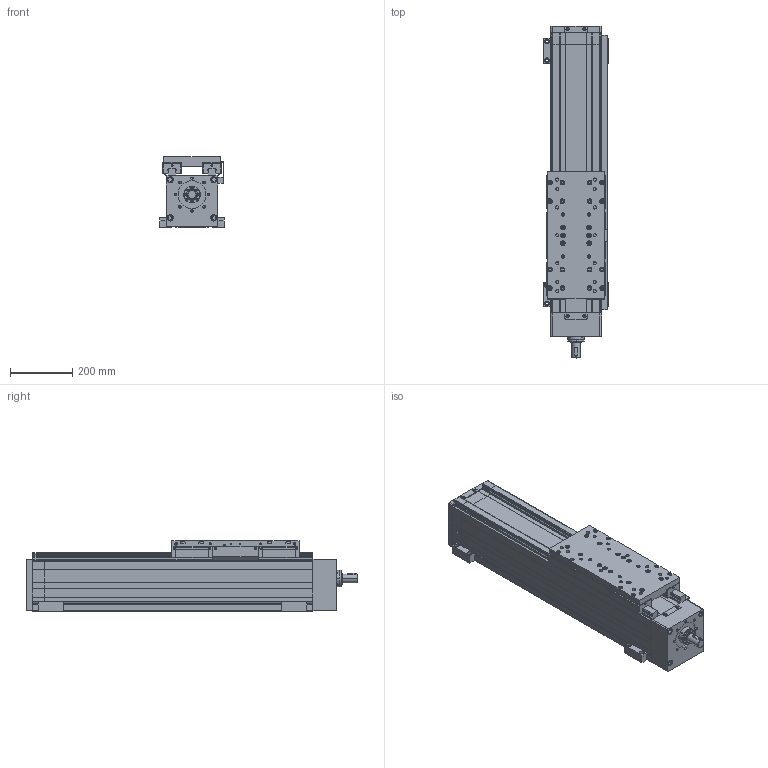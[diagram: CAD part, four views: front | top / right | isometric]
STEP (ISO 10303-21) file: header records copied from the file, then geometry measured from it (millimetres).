
FILE_DESCRIPTION(('Creo Elements/Direct Modeling STEP Export'),'2;1');
FILE_NAME('B165-C-SSF-410-EN.stp','2020-10-07T13:51:27',(''),(''),'Creo Elements/Direct Modeling STEP processor for AP214 (Solid Model)','Creo Elements/Direct Modeling 20.1C 13-Oct-2019 (C) Parametric Technology GmbH','');
FILE_SCHEMA(('AUTOMOTIVE_DESIGN { 1 0 10303 214 1 1 1 1 }'));
Length unit declared in the file: millimetre
Products named in the file (13): Endschalter_induktiv__ES2-EO2_ES10-EO10_.3; XXXXX_Schaltfahne; Endschalter_Profil_EN1-1110; Induktive-Endschalter; Grundkoerper_T2; BL3; BL3.1; Befestigungsleistenpaar; Befestigungsleistenpaar.02; Befestigungsleisten; Schlitten-410; Grundkoerper_T1; B165-C-SSF-410-EN
Assembly tree (15 placements, depth 4):
  B165-C-SSF-410-EN
    Grundkoerper_T1
    Schlitten-410
    Befestigungsleisten
      Befestigungsleistenpaar.02
        BL3.1
        BL3
      Befestigungsleistenpaar
        BL3.1
        BL3
    Grundkoerper_T2
    Induktive-Endschalter
      Endschalter_induktiv__ES2-EO2_ES10-EO10_.3  x2
      Endschalter_Profil_EN1-1110
      XXXXX_Schaltfahne
Bounding box: 209 x 1070 x 227 mm (x, y, z)
Volume: 28139931.2 mm3; surface area: 1512442.1 mm2
Topology: 30 solids, 31 shells, 2213 faces, 5688 edges, 3614 vertices
Faces by surface type: plane 1261, cylinder 658, cone 254, sphere 20, torus 12, bspline 8
Entity records: 66686 total; most frequent: CARTESIAN_POINT 15748, ORIENTED_EDGE 10780, DIRECTION 9737, EDGE_CURVE 5390, VECTOR 3555, LINE 3555, VERTEX_POINT 3488, AXIS2_PLACEMENT_3D 3091
